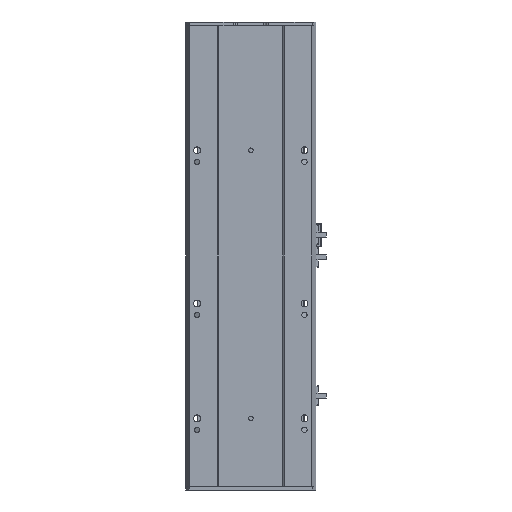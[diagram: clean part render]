
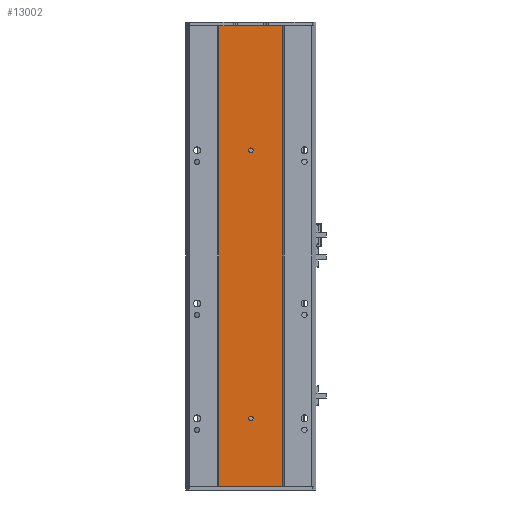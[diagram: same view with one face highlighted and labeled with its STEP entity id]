
A CAD part, front view. The second image highlights one B-rep face of the part: STEP entity #13002.
In plain terms, the highlighted planar face has unit normal (0, -1, 0).
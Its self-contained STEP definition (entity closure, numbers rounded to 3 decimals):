
#718 = ORIENTED_EDGE ( 'NONE', *, *, #14740, .F. ) ;
#769 = EDGE_CURVE ( 'NONE', #17561, #16539, #11808, .T. ) ;
#998 = EDGE_CURVE ( 'NONE', #16539, #17561, #7227, .T. ) ;
#1033 = CIRCLE ( 'NONE', #7349, 3. ) ;
#1326 = FACE_BOUND ( 'NONE', #4715, .T. ) ;
#1363 = ORIENTED_EDGE ( 'NONE', *, *, #769, .T. ) ;
#1450 = CARTESIAN_POINT ( 'NONE',  ( 85., 2.57, 438.5 ) ) ;
#2518 = CARTESIAN_POINT ( 'NONE',  ( 42.916, 2.57, 0. ) ) ;
#3290 = DIRECTION ( 'NONE',  ( 0., 0., 1. ) ) ;
#4715 = EDGE_LOOP ( 'NONE', ( #19061, #18516 ) ) ;
#5343 = CARTESIAN_POINT ( 'NONE',  ( 85., 2.57, 88.5 ) ) ;
#5348 = VECTOR ( 'NONE', #22056, 1000. ) ;
#5629 = CIRCLE ( 'NONE', #5869, 3. ) ;
#5683 = CARTESIAN_POINT ( 'NONE',  ( 85., 2.57, 441.5 ) ) ;
#5869 = AXIS2_PLACEMENT_3D ( 'NONE', #19475, #8495, #21320 ) ;
#5909 = DIRECTION ( 'NONE',  ( 0., 0., 1. ) ) ;
#6797 = EDGE_CURVE ( 'NONE', #7719, #23649, #22682, .T. ) ;
#6900 = VECTOR ( 'NONE', #13024, 1000. ) ;
#7186 = DIRECTION ( 'NONE',  ( 0., 0., 1. ) ) ;
#7227 = CIRCLE ( 'NONE', #23634, 3. ) ;
#7349 = AXIS2_PLACEMENT_3D ( 'NONE', #5343, #18177, #7186 ) ;
#7472 = EDGE_LOOP ( 'NONE', ( #17744, #718, #20779, #13311 ) ) ;
#7477 = LINE ( 'NONE', #11156, #6900 ) ;
#7694 = DIRECTION ( 'NONE',  ( 0., 0., 1. ) ) ;
#7719 = VERTEX_POINT ( 'NONE', #14306 ) ;
#7978 = CARTESIAN_POINT ( 'NONE',  ( 126.916, 2.57, 601. ) ) ;
#8495 = DIRECTION ( 'NONE',  ( 0., 1., 0. ) ) ;
#8670 = CARTESIAN_POINT ( 'NONE',  ( 85., 2.57, 85.5 ) ) ;
#9513 = CARTESIAN_POINT ( 'NONE',  ( 42.916, 2.57, 0. ) ) ;
#9549 = VERTEX_POINT ( 'NONE', #12168 ) ;
#9674 = EDGE_CURVE ( 'NONE', #15649, #9549, #1033, .T. ) ;
#10064 = VERTEX_POINT ( 'NONE', #22983 ) ;
#10487 = FACE_OUTER_BOUND ( 'NONE', #7472, .T. ) ;
#10968 = DIRECTION ( 'NONE',  ( 0., 1., 0. ) ) ;
#11041 = CARTESIAN_POINT ( 'NONE',  ( 42.916, 2.57, 601. ) ) ;
#11156 = CARTESIAN_POINT ( 'NONE',  ( 42.916, 2.57, 0. ) ) ;
#11310 = AXIS2_PLACEMENT_3D ( 'NONE', #21975, #10968, #14867 ) ;
#11332 = CARTESIAN_POINT ( 'NONE',  ( 85., 2.57, 435.5 ) ) ;
#11546 = AXIS2_PLACEMENT_3D ( 'NONE', #9513, #16896, #5909 ) ;
#11656 = DIRECTION ( 'NONE',  ( 0., 0., 1. ) ) ;
#11808 = CIRCLE ( 'NONE', #11310, 3. ) ;
#12168 = CARTESIAN_POINT ( 'NONE',  ( 85., 2.57, 91.5 ) ) ;
#12913 = VECTOR ( 'NONE', #7694, 1000. ) ;
#13002 = ADVANCED_FACE ( 'NONE', ( #1326, #20239, #10487 ), #15048, .F. ) ;
#13024 = DIRECTION ( 'NONE',  ( -1., 0., 0. ) ) ;
#13311 = ORIENTED_EDGE ( 'NONE', *, *, #6797, .T. ) ;
#13861 = LINE ( 'NONE', #2518, #18164 ) ;
#14267 = DIRECTION ( 'NONE',  ( 0., 1., 0. ) ) ;
#14306 = CARTESIAN_POINT ( 'NONE',  ( 126.916, 2.57, 0. ) ) ;
#14740 = EDGE_CURVE ( 'NONE', #10064, #22902, #13861, .T. ) ;
#14867 = DIRECTION ( 'NONE',  ( 0., 0., 1. ) ) ;
#15048 = PLANE ( 'NONE',  #11546 ) ;
#15649 = VERTEX_POINT ( 'NONE', #8670 ) ;
#16539 = VERTEX_POINT ( 'NONE', #11332 ) ;
#16896 = DIRECTION ( 'NONE',  ( 0., 1., 0. ) ) ;
#17561 = VERTEX_POINT ( 'NONE', #5683 ) ;
#17744 = ORIENTED_EDGE ( 'NONE', *, *, #22972, .T. ) ;
#18164 = VECTOR ( 'NONE', #11656, 1000. ) ;
#18177 = DIRECTION ( 'NONE',  ( 0., 1., 0. ) ) ;
#18330 = EDGE_LOOP ( 'NONE', ( #21551, #1363 ) ) ;
#18516 = ORIENTED_EDGE ( 'NONE', *, *, #23223, .T. ) ;
#18753 = CARTESIAN_POINT ( 'NONE',  ( 126.916, 2.57, 0. ) ) ;
#19061 = ORIENTED_EDGE ( 'NONE', *, *, #9674, .T. ) ;
#19475 = CARTESIAN_POINT ( 'NONE',  ( 85., 2.57, 88.5 ) ) ;
#20027 = CARTESIAN_POINT ( 'NONE',  ( 42.916, 2.57, 601. ) ) ;
#20239 = FACE_BOUND ( 'NONE', #18330, .T. ) ;
#20749 = EDGE_CURVE ( 'NONE', #7719, #10064, #7477, .T. ) ;
#20779 = ORIENTED_EDGE ( 'NONE', *, *, #20749, .F. ) ;
#21320 = DIRECTION ( 'NONE',  ( 0., 0., 1. ) ) ;
#21551 = ORIENTED_EDGE ( 'NONE', *, *, #998, .T. ) ;
#21975 = CARTESIAN_POINT ( 'NONE',  ( 85., 2.57, 438.5 ) ) ;
#22056 = DIRECTION ( 'NONE',  ( -1., 0., 0. ) ) ;
#22682 = LINE ( 'NONE', #18753, #12913 ) ;
#22902 = VERTEX_POINT ( 'NONE', #20027 ) ;
#22972 = EDGE_CURVE ( 'NONE', #23649, #22902, #23459, .T. ) ;
#22983 = CARTESIAN_POINT ( 'NONE',  ( 42.916, 2.57, 0. ) ) ;
#23223 = EDGE_CURVE ( 'NONE', #9549, #15649, #5629, .T. ) ;
#23459 = LINE ( 'NONE', #11041, #5348 ) ;
#23634 = AXIS2_PLACEMENT_3D ( 'NONE', #1450, #14267, #3290 ) ;
#23649 = VERTEX_POINT ( 'NONE', #7978 ) ;
